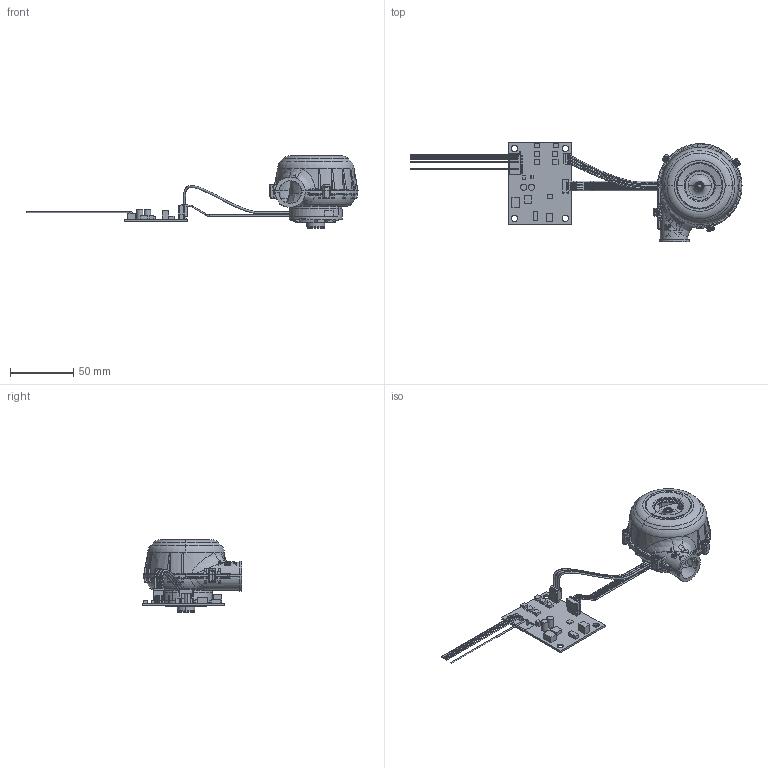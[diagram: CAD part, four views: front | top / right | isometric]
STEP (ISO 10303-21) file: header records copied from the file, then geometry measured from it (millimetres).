
FILE_DESCRIPTION((''),'2;1');
FILE_NAME('ALL_ASM_41_ASM_ASM_ASM_ASM','2020-12-09T',('Administrator'),(''),'PRO/ENGINEER BY PARAMETRIC TECHNOLOGY CORPORATION, 2010480','PRO/ENGINEER BY PARAMETRIC TECHNOLOGY CORPORATION, 2010480','');
FILE_SCHEMA(('CONFIG_CONTROL_DESIGN','SHAPE_APPEARANCE_LAYERS_GROUPS'));
Length unit declared in the file: millimetre
Products named in the file (39): H-0935-A2_1_8; H-0935-A3_1_3; LS_PB_3_8_1; KM2_5_4_1; TOP-A; H-0935-ALL_ASM_1_ASM_6_ASM_ASM__ASM; XGP_5; MANIFOLD_SOLID_BREP_48777; MANIFOLD_SOLID_BREP_48997; MANIFOLD_SOLID_BREP_49217; MANIFOLD_SOLID_BREP_49437; CT_1_ASM_ASM_ASM_ASM; DG_7; LVKE_8; ZC_R_1140ZZ_2; TT_3_3; XJ_2; XJPCB_10; RX_5; PCB_11; GJQ_4; XGP_1_2; DP_1; GJQ_1_2; TT_1_1_3; TT_1_2_4; TT_2_1_4; DGS_1; SAIZI_1; LS_1; PCBA_5; DZ_1_4; DZ_2_4; TH_6; LS_15_4_1; ZC_2; DJ_ASM_25_ASM_ASM_ASM_ASM; ZHOUU_1; ALL_ASM_41_ASM_ASM_ASM_ASM
Assembly tree (52 placements, depth 4):
  ALL_ASM_41_ASM_ASM_ASM_ASM
    H-0935-ALL_ASM_1_ASM_6_ASM_ASM__ASM
      H-0935-A2_1_8
      H-0935-A3_1_3
      LS_PB_3_8_1  x4
      KM2_5_4_1  x3
      TOP-A
    DJ_ASM_25_ASM_ASM_ASM_ASM
      XGP_5
      CT_1_ASM_ASM_ASM_ASM
        MANIFOLD_SOLID_BREP_48777
        MANIFOLD_SOLID_BREP_48997
        MANIFOLD_SOLID_BREP_49217
        MANIFOLD_SOLID_BREP_49437
      DG_7
      LVKE_8
      ZC_R_1140ZZ_2
      TT_3_3
      XJ_2
      XJPCB_10
      RX_5  x5
      PCB_11
      GJQ_4
      XGP_1_2
      DP_1
      GJQ_1_2
      TT_1_1_3  x2
      TT_1_2_4
      TT_2_1_4
      DGS_1
      SAIZI_1
      LS_1  x3
      PCBA_5
      DZ_1_4
      DZ_2_4
      TH_6
      LS_15_4_1  x3
      ZC_2
    ZHOUU_1
Bounding box: 261.72 x 78.52 x 57.54 mm (x, y, z)
Volume: 70951.6 mm3; surface area: 93865.3 mm2
Topology: 49 solids, 51 shells, 3085 faces, 8610 edges, 5673 vertices
Faces by surface type: plane 1552, cylinder 738, torus 232, bspline 219, cone 184, revolution 82, sphere 56, extrusion 22
Entity records: 113118 total; most frequent: CARTESIAN_POINT 37484, ORIENTED_EDGE 14940, DIRECTION 13832, EDGE_CURVE 7478, AXIS2_PLACEMENT_3D 5113, VERTEX_POINT 5021, VECTOR 3530, LINE 3508
